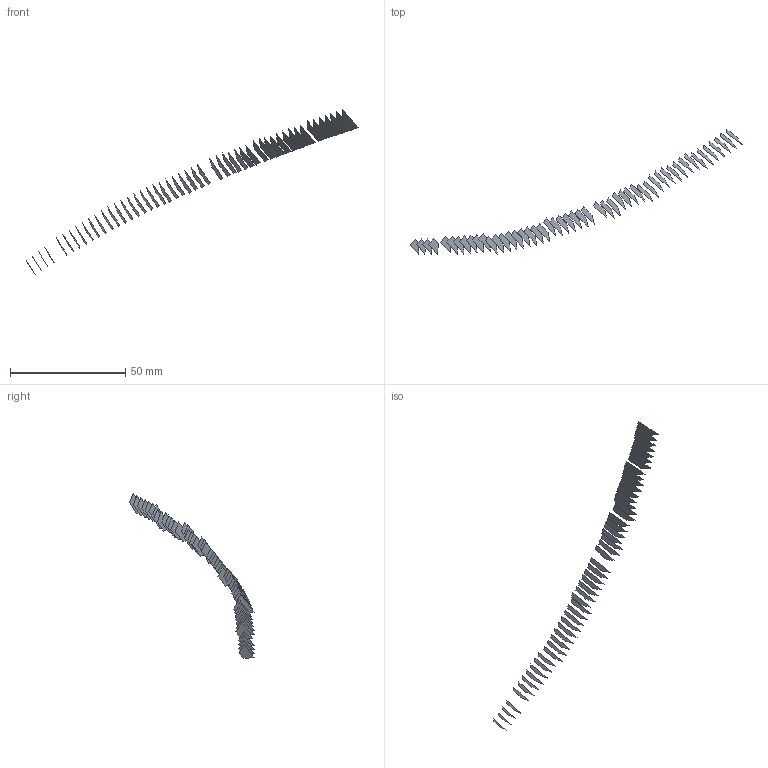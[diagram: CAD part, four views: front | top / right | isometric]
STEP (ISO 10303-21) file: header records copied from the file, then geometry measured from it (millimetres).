
FILE_DESCRIPTION(('FreeCAD Model'),'2;1');
FILE_NAME('Open CASCADE Shape Model','2022-05-22T07:50:32',('FreeCAD'),( 'FreeCAD'),'Open CASCADE STEP processor 7.5','FreeCAD','Unknown');
FILE_SCHEMA(('AUTOMOTIVE_DESIGN { 1 0 10303 214 1 1 1 1 }'));
Length unit declared in the file: millimetre
Products named in the file (51): Open CASCADE STEP translator 7.5 4; Open CASCADE STEP translator 7.5 4.1; Open CASCADE STEP translator 7.5 4.2; Open CASCADE STEP translator 7.5 4.3; Open CASCADE STEP translator 7.5 4.4; Open CASCADE STEP translator 7.5 4.5; Open CASCADE STEP translator 7.5 4.6; Open CASCADE STEP translator 7.5 4.7; Open CASCADE STEP translator 7.5 4.8; Open CASCADE STEP translator 7.5 4.9; Open CASCADE STEP translator 7.5 4.10; Open CASCADE STEP translator 7.5 4.11; Open CASCADE STEP translator 7.5 4.12; Open CASCADE STEP translator 7.5 4.13; Open CASCADE STEP translator 7.5 4.14; Open CASCADE STEP translator 7.5 4.15; Open CASCADE STEP translator 7.5 4.16; Open CASCADE STEP translator 7.5 4.17; Open CASCADE STEP translator 7.5 4.18; Open CASCADE STEP translator 7.5 4.19; Open CASCADE STEP translator 7.5 4.20; Open CASCADE STEP translator 7.5 4.21; Open CASCADE STEP translator 7.5 4.22; Open CASCADE STEP translator 7.5 4.23; Open CASCADE STEP translator 7.5 4.24; Open CASCADE STEP translator 7.5 4.25; Open CASCADE STEP translator 7.5 4.26; Open CASCADE STEP translator 7.5 4.27; Open CASCADE STEP translator 7.5 4.28; Open CASCADE STEP translator 7.5 4.29; Open CASCADE STEP translator 7.5 4.30; Open CASCADE STEP translator 7.5 4.31; Open CASCADE STEP translator 7.5 4.32; Open CASCADE STEP translator 7.5 4.33; Open CASCADE STEP translator 7.5 4.34; Open CASCADE STEP translator 7.5 4.35; Open CASCADE STEP translator 7.5 4.36; Open CASCADE STEP translator 7.5 4.37; Open CASCADE STEP translator 7.5 4.38; Open CASCADE STEP translator 7.5 4.39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
Assembly tree (50 placements, depth 2):
  Open CASCADE STEP translator 7.5 4
    Open CASCADE STEP translator 7.5 4.1
    Open CASCADE STEP translator 7.5 4.2
    Open CASCADE STEP translator 7.5 4.3
    Open CASCADE STEP translator 7.5 4.4
    Open CASCADE STEP translator 7.5 4.5
    Open CASCADE STEP translator 7.5 4.6
    Open CASCADE STEP translator 7.5 4.7
    Open CASCADE STEP translator 7.5 4.8
    Open CASCADE STEP translator 7.5 4.9
    Open CASCADE STEP translator 7.5 4.10
    Open CASCADE STEP translator 7.5 4.11
    Open CASCADE STEP translator 7.5 4.12
    Open CASCADE STEP translator 7.5 4.13
    Open CASCADE STEP translator 7.5 4.14
    Open CASCADE STEP translator 7.5 4.15
    Open CASCADE STEP translator 7.5 4.16
    Open CASCADE STEP translator 7.5 4.17
    Open CASCADE STEP translator 7.5 4.18
    Open CASCADE STEP translator 7.5 4.19
    Open CASCADE STEP translator 7.5 4.20
    Open CASCADE STEP translator 7.5 4.21
    Open CASCADE STEP translator 7.5 4.22
    Open CASCADE STEP translator 7.5 4.23
    Open CASCADE STEP translator 7.5 4.24
    Open CASCADE STEP translator 7.5 4.25
    Open CASCADE STEP translator 7.5 4.26
    Open CASCADE STEP translator 7.5 4.27
    Open CASCADE STEP translator 7.5 4.28
    Open CASCADE STEP translator 7.5 4.29
    Open CASCADE STEP translator 7.5 4.30
    Open CASCADE STEP translator 7.5 4.31
    Open CASCADE STEP translator 7.5 4.32
    Open CASCADE STEP translator 7.5 4.33
    Open CASCADE STEP translator 7.5 4.34
    Open CASCADE STEP translator 7.5 4.35
    Open CASCADE STEP translator 7.5 4.36
    Open CASCADE STEP translator 7.5 4.37
    Open CASCADE STEP translator 7.5 4.38
    Open CASCADE STEP translator 7.5 4.39
    Open CASCADE STEP translator 7.5 4.40
    Open CASCADE STEP translator 7.5 4.41
    Open CASCADE STEP translator 7.5 4.42
    Open CASCADE STEP translator 7.5 4.43
    Open CASCADE STEP translator 7.5 4.44
    Open CASCADE STEP translator 7.5 4.45
    Open CASCADE STEP translator 7.5 4.46
    Open CASCADE STEP translator 7.5 4.47
    Open CASCADE STEP translator 7.5 4.48
    Open CASCADE STEP translator 7.5 4.49
    Open CASCADE STEP translator 7.5 4.50
Bounding box: 144.18 x 54.28 x 71.63 mm (x, y, z)
Surface area: 1704.8 mm2 (no closed solid volume)
Topology: 0 solids, 50 shells, 50 faces, 514 edges, 514 vertices
Faces by surface type: bspline 50
Entity records: 8098 total; most frequent: CARTESIAN_POINT 2821, B_SPLINE_CURVE_WITH_KNOTS 1028, ORIENTED_EDGE 514, EDGE_CURVE 514, VERTEX_POINT 514, SURFACE_CURVE 514, PCURVE 514, DEFINITIONAL_REPRESENTATION 514
